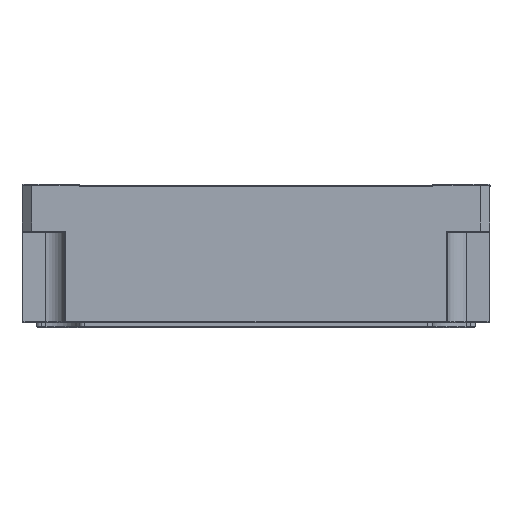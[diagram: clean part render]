
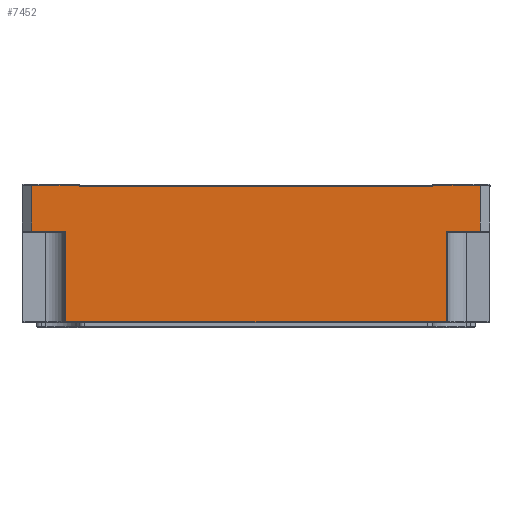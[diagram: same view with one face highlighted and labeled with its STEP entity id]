
A CAD part, left-side view. The second image highlights one B-rep face of the part: STEP entity #7452.
In plain terms, the highlighted planar face has unit normal (-1, 0, 0).
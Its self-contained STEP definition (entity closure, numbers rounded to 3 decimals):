
#112 = LINE ( 'NONE', #2607, #2024 ) ;
#482 = CARTESIAN_POINT ( 'NONE',  ( -25.67, 52.638, 13.6 ) ) ;
#490 = VECTOR ( 'NONE', #1606, 1000. ) ;
#504 = CARTESIAN_POINT ( 'NONE',  ( -25.67, -24.162, 4.2 ) ) ;
#581 = CARTESIAN_POINT ( 'NONE',  ( -25.67, -31.362, 4.2 ) ) ;
#615 = VECTOR ( 'NONE', #635, 1000. ) ;
#635 = DIRECTION ( 'NONE',  ( 0., -1., 0. ) ) ;
#679 = EDGE_CURVE ( 'NONE', #5159, #1102, #5033, .T. ) ;
#715 = EDGE_CURVE ( 'NONE', #3750, #5374, #1933, .T. ) ;
#744 = DIRECTION ( 'NONE',  ( 0., 1., 0. ) ) ;
#812 = VERTEX_POINT ( 'NONE', #581 ) ;
#836 = EDGE_CURVE ( 'NONE', #5374, #7246, #2328, .T. ) ;
#930 = ORIENTED_EDGE ( 'NONE', *, *, #2191, .T. ) ;
#997 = CARTESIAN_POINT ( 'NONE',  ( -25.67, 62.638, 4.2 ) ) ;
#1034 = DIRECTION ( 'NONE',  ( 0., -1., 0. ) ) ;
#1055 = EDGE_CURVE ( 'NONE', #4904, #812, #1824, .T. ) ;
#1102 = VERTEX_POINT ( 'NONE', #1294 ) ;
#1218 = CARTESIAN_POINT ( 'NONE',  ( -25.67, 55.438, 4.2 ) ) ;
#1278 = LINE ( 'NONE', #4567, #3982 ) ;
#1292 = CARTESIAN_POINT ( 'NONE',  ( -25.67, 62.638, 13.8 ) ) ;
#1294 = CARTESIAN_POINT ( 'NONE',  ( -25.67, -21.362, 13.8 ) ) ;
#1306 = EDGE_LOOP ( 'NONE', ( #7407, #3528, #2906, #1692, #6636, #5970, #5813, #930, #6639, #6993, #4827, #3961 ) ) ;
#1395 = EDGE_CURVE ( 'NONE', #1102, #3030, #112, .T. ) ;
#1506 = VECTOR ( 'NONE', #6753, 1000. ) ;
#1584 = VECTOR ( 'NONE', #3754, 1000. ) ;
#1606 = DIRECTION ( 'NONE',  ( 0., 1., 0. ) ) ;
#1618 = CARTESIAN_POINT ( 'NONE',  ( -25.67, 55.438, 14. ) ) ;
#1692 = ORIENTED_EDGE ( 'NONE', *, *, #4606, .T. ) ;
#1824 = LINE ( 'NONE', #8382, #615 ) ;
#1840 = DIRECTION ( 'NONE',  ( 0., 1., 0. ) ) ;
#1855 = VECTOR ( 'NONE', #1034, 1000. ) ;
#1864 = EDGE_CURVE ( 'NONE', #7400, #2627, #3607, .T. ) ;
#1897 = DIRECTION ( 'NONE',  ( 0., 0., -1. ) ) ;
#1917 = DIRECTION ( 'NONE',  ( 0., -1., 0. ) ) ;
#1933 = LINE ( 'NONE', #1292, #7301 ) ;
#2024 = VECTOR ( 'NONE', #1897, 1000. ) ;
#2191 = EDGE_CURVE ( 'NONE', #7246, #7400, #5269, .T. ) ;
#2305 = CARTESIAN_POINT ( 'NONE',  ( -25.67, -21.362, 13.6 ) ) ;
#2328 = LINE ( 'NONE', #7125, #4432 ) ;
#2414 = CARTESIAN_POINT ( 'NONE',  ( -25.67, 64.638, 4.2 ) ) ;
#2464 = VERTEX_POINT ( 'NONE', #482 ) ;
#2512 = VECTOR ( 'NONE', #6025, 1000. ) ;
#2604 = DIRECTION ( 'NONE',  ( 0., 1., 0. ) ) ;
#2607 = CARTESIAN_POINT ( 'NONE',  ( -25.67, -21.362, 13.8 ) ) ;
#2627 = VERTEX_POINT ( 'NONE', #7707 ) ;
#2663 = DIRECTION ( 'NONE',  ( 0., 0., 1. ) ) ;
#2840 = CARTESIAN_POINT ( 'NONE',  ( -25.67, 62.638, 13.8 ) ) ;
#2906 = ORIENTED_EDGE ( 'NONE', *, *, #1395, .T. ) ;
#3030 = VERTEX_POINT ( 'NONE', #2305 ) ;
#3249 = CARTESIAN_POINT ( 'NONE',  ( -25.67, 64.638, 14. ) ) ;
#3276 = DIRECTION ( 'NONE',  ( 1., 0., 0. ) ) ;
#3407 = LINE ( 'NONE', #4205, #490 ) ;
#3528 = ORIENTED_EDGE ( 'NONE', *, *, #679, .T. ) ;
#3607 = LINE ( 'NONE', #1618, #1506 ) ;
#3750 = VERTEX_POINT ( 'NONE', #3847 ) ;
#3754 = DIRECTION ( 'NONE',  ( 0., 0., 1. ) ) ;
#3847 = CARTESIAN_POINT ( 'NONE',  ( -25.67, 52.638, 13.8 ) ) ;
#3892 = FACE_OUTER_BOUND ( 'NONE', #1306, .T. ) ;
#3961 = ORIENTED_EDGE ( 'NONE', *, *, #1055, .T. ) ;
#3982 = VECTOR ( 'NONE', #2663, 1000. ) ;
#4198 = LINE ( 'NONE', #6637, #2512 ) ;
#4205 = CARTESIAN_POINT ( 'NONE',  ( -25.67, 64.638, 13.6 ) ) ;
#4394 = CARTESIAN_POINT ( 'NONE',  ( -25.67, -24.162, 14. ) ) ;
#4432 = VECTOR ( 'NONE', #7866, 1000. ) ;
#4460 = EDGE_CURVE ( 'NONE', #2464, #3750, #4198, .T. ) ;
#4567 = CARTESIAN_POINT ( 'NONE',  ( -25.67, -31.362, 14. ) ) ;
#4606 = EDGE_CURVE ( 'NONE', #3030, #2464, #3407, .T. ) ;
#4827 = ORIENTED_EDGE ( 'NONE', *, *, #4882, .T. ) ;
#4882 = EDGE_CURVE ( 'NONE', #7802, #4904, #7156, .T. ) ;
#4904 = VERTEX_POINT ( 'NONE', #504 ) ;
#4975 = CARTESIAN_POINT ( 'NONE',  ( -25.67, -24.162, -14.8 ) ) ;
#5033 = LINE ( 'NONE', #7640, #6046 ) ;
#5159 = VERTEX_POINT ( 'NONE', #5928 ) ;
#5269 = LINE ( 'NONE', #2414, #1855 ) ;
#5374 = VERTEX_POINT ( 'NONE', #2840 ) ;
#5694 = LINE ( 'NONE', #5816, #8261 ) ;
#5755 = PLANE ( 'NONE',  #8129 ) ;
#5813 = ORIENTED_EDGE ( 'NONE', *, *, #836, .T. ) ;
#5816 = CARTESIAN_POINT ( 'NONE',  ( -25.67, 64.638, -14.8 ) ) ;
#5928 = CARTESIAN_POINT ( 'NONE',  ( -25.67, -31.362, 13.8 ) ) ;
#5970 = ORIENTED_EDGE ( 'NONE', *, *, #715, .T. ) ;
#6025 = DIRECTION ( 'NONE',  ( 0., 0., 1. ) ) ;
#6046 = VECTOR ( 'NONE', #1840, 1000. ) ;
#6636 = ORIENTED_EDGE ( 'NONE', *, *, #4460, .T. ) ;
#6637 = CARTESIAN_POINT ( 'NONE',  ( -25.67, 52.638, 13.8 ) ) ;
#6639 = ORIENTED_EDGE ( 'NONE', *, *, #1864, .T. ) ;
#6753 = DIRECTION ( 'NONE',  ( 0., 0., -1. ) ) ;
#6993 = ORIENTED_EDGE ( 'NONE', *, *, #7472, .T. ) ;
#7125 = CARTESIAN_POINT ( 'NONE',  ( -25.67, 62.638, 14. ) ) ;
#7156 = LINE ( 'NONE', #4394, #1584 ) ;
#7246 = VERTEX_POINT ( 'NONE', #997 ) ;
#7301 = VECTOR ( 'NONE', #2604, 1000. ) ;
#7400 = VERTEX_POINT ( 'NONE', #1218 ) ;
#7407 = ORIENTED_EDGE ( 'NONE', *, *, #8032, .T. ) ;
#7452 = ADVANCED_FACE ( 'NONE', ( #3892 ), #5755, .F. ) ;
#7472 = EDGE_CURVE ( 'NONE', #2627, #7802, #5694, .T. ) ;
#7640 = CARTESIAN_POINT ( 'NONE',  ( -25.67, -21.362, 13.8 ) ) ;
#7707 = CARTESIAN_POINT ( 'NONE',  ( -25.67, 55.438, -14.8 ) ) ;
#7802 = VERTEX_POINT ( 'NONE', #4975 ) ;
#7866 = DIRECTION ( 'NONE',  ( 0., 0., -1. ) ) ;
#8032 = EDGE_CURVE ( 'NONE', #812, #5159, #1278, .T. ) ;
#8129 = AXIS2_PLACEMENT_3D ( 'NONE', #3249, #3276, #744 ) ;
#8261 = VECTOR ( 'NONE', #1917, 1000. ) ;
#8382 = CARTESIAN_POINT ( 'NONE',  ( -25.67, -31.362, 4.2 ) ) ;
